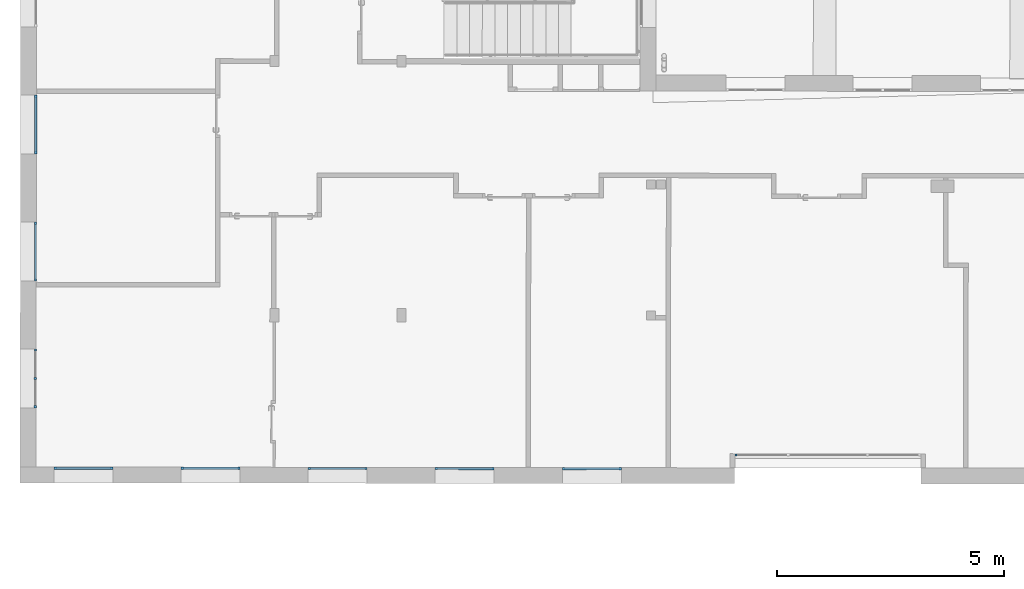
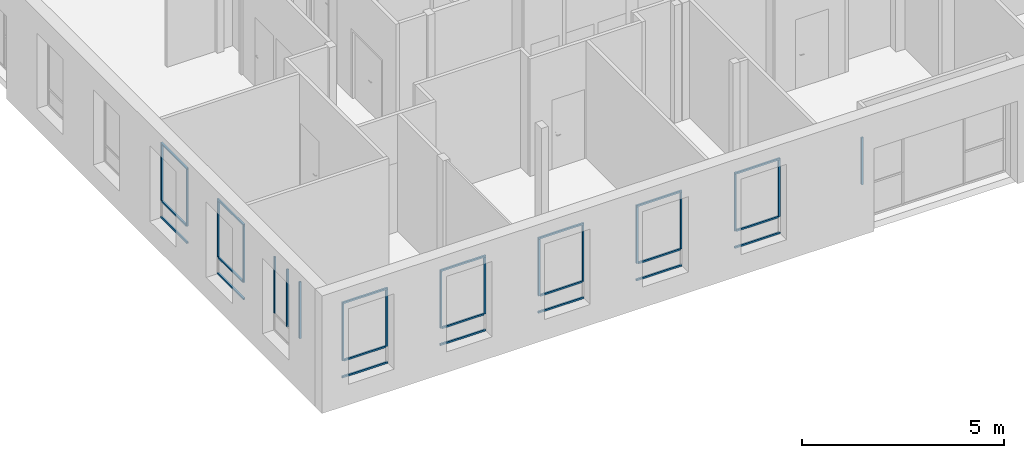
# One storey, part 3 of 101: 39 members, 9 elements without a shape of their own.
"""IFC2X3 building model written with IfcOpenShell, lengths in metres."""

from ifc_helpers import new_model, entity, si_unit, converted_unit, derived_unit, direction, frame, frame_2d, origin, origin_2d_with_axis, place, context, subcontext, project, spatial, rectangle, extrude, source, transform, mapped, material, type_object, type_shapes, element, aggregate, save


model = new_model("IFC2X3")

# Units and contexts
model_context = context("Model", 3, precision=1e-05, world=origin(), true_north=direction((6.123233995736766e-17, 1.0)))
body_context = subcontext(model_context, "Body", "Model", "MODEL_VIEW")
ifc_project = project(units=[si_unit("LENGTHUNIT", "METRE"), si_unit("AREAUNIT", "SQUARE_METRE"), converted_unit("PLANEANGLEUNIT", "DEGREE", entity("IfcPlaneAngleMeasure", 0.017453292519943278), si_unit("PLANEANGLEUNIT", "RADIAN"), dimensions=[0, 0, 0, 0, 0, 0, 0]), derived_unit("THERMALTRANSMITTANCEUNIT", [(si_unit("MASSUNIT", "GRAM", prefix="KILO"), 1), (si_unit("THERMODYNAMICTEMPERATUREUNIT", "KELVIN"), -1), (si_unit("TIMEUNIT", "SECOND"), -3)])], contexts=[model_context])

# Site, building, storey
site_placement = place(None, frame((1253.6752467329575, 2072.143113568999, 91.49999999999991), z_axis=(0.0, 0.0, 1.0), x_axis=(0.7237211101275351, 0.6900925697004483, 0.0)))
site = spatial("IfcSite", under=ifc_project, at=site_placement, Name="Surface", CompositionType="ELEMENT")
building_placement = place(site_placement, origin())
building = spatial("IfcBuilding", under=site, at=building_placement, CompositionType="ELEMENT")
storey_placement = place(building_placement, origin())
storey = spatial("IfcBuildingStorey", under=building, at=storey_placement, Name="0- Rdc", CompositionType="ELEMENT", Elevation=-5.764692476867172e-13)

# Curtain wall, member
curtain_wall_type = type_object("IfcCurtainWallType", Name="Mur-rideau:Menuiserie Ext 1F+1OB VERTIC", PredefinedType="NOTDEFINED")
curtain_wall_1_placement = place(storey_placement, origin())
curtain_wall_1 = element("IfcCurtainWall", 1, at=curtain_wall_1_placement, inside=storey, type_object=curtain_wall_type, Name="Mur-rideau:Menuiserie Ext 1F+1OB VERTIC", ObjectType="Mur-rideau:Menuiserie Ext 1F+1OB VERTIC")
ifc_material_1 = material(Name="OMD_Aluminium Men Ext")
member_type_1 = type_object("IfcMemberType", Name="Meneau rectangulaire:50x50", PredefinedType="MULLION", material=ifc_material_1)
shared_shape_1 = source(origin(), body_context, "Body", "SweptSolid", [
    extrude(rectangle(XDim=0.05, YDim=0.049999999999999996, at=origin_2d_with_axis()), frame((-0.025, 0.0, -1.2996959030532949), z_axis=(0.0, 0.0, 1.0), x_axis=(-1.0, 0.0, 0.0)), (0.0, 0.0, 1.0), 1.2996959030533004),
])
type_shapes(member_type_1, [shared_shape_1])
member_1_placement = place(curtain_wall_1_placement, frame((152.60053656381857, -3.756054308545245, 2.8999999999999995), z_axis=(-0.7228702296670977, 0.6909838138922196, 0.0), x_axis=(0.0, 0.0, 1.0)))
member_1 = element("IfcMember", 2, at=member_1_placement, type_object=member_type_1, material=ifc_material_1, Name="Meneau rectangulaire:50x50", ObjectType="Meneau rectangulaire:50x50", context=body_context, shape_type="MappedRepresentation", body=[
    mapped(shared_shape_1, transform((0.0, 0.0, 0.0), scale=1.0)),
])

curtain_wall_2_placement = place(storey_placement, origin())
curtain_wall_2 = element("IfcCurtainWall", 3, at=curtain_wall_2_placement, inside=storey, type_object=curtain_wall_type, Name="Mur-rideau:Menuiserie Ext 1F+1OB VERTIC", ObjectType="Mur-rideau:Menuiserie Ext 1F+1OB VERTIC")
member_2_placement = place(curtain_wall_2_placement, frame((150.5764999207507, -1.8212996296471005, 2.8999999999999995), z_axis=(-0.7228702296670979, 0.6909838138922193, 0.0), x_axis=(0.0, 0.0, 1.0)))
member_2 = element("IfcMember", 4, at=member_2_placement, type_object=member_type_1, material=ifc_material_1, Name="Meneau rectangulaire:50x50", ObjectType="Meneau rectangulaire:50x50", context=body_context, shape_type="MappedRepresentation", body=[
    mapped(shared_shape_1, transform((0.0, 0.0, 0.0), scale=1.0)),
])

curtain_wall_3_placement = place(storey_placement, origin())
curtain_wall_3 = element("IfcCurtainWall", 5, at=curtain_wall_3_placement, inside=storey, type_object=curtain_wall_type, Name="Mur-rideau:Menuiserie Ext 1F+1OB VERTIC", ObjectType="Mur-rideau:Menuiserie Ext 1F+1OB VERTIC")
member_3_placement = place(curtain_wall_3_placement, frame((148.55246327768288, 0.11345504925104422, 2.8999999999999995), z_axis=(-0.7228702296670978, 0.6909838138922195, 0.0), x_axis=(0.0, 0.0, 1.0)))
member_3 = element("IfcMember", 6, at=member_3_placement, type_object=member_type_1, material=ifc_material_1, Name="Meneau rectangulaire:50x50", ObjectType="Meneau rectangulaire:50x50", context=body_context, shape_type="MappedRepresentation", body=[
    mapped(shared_shape_1, transform((0.0, 0.0, 0.0), scale=1.0)),
])

curtain_wall_4_placement = place(storey_placement, origin())
curtain_wall_4 = element("IfcCurtainWall", 7, at=curtain_wall_4_placement, inside=storey, type_object=curtain_wall_type, Name="Mur-rideau:Menuiserie Ext 1F+1OB VERTIC", ObjectType="Mur-rideau:Menuiserie Ext 1F+1OB VERTIC")
member_4_placement = place(curtain_wall_4_placement, frame((146.5281144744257, 2.048508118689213, 2.8999999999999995), z_axis=(-0.7228702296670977, 0.6909838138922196, 0.0), x_axis=(0.0, 0.0, 1.0)))
member_4 = element("IfcMember", 8, at=member_4_placement, type_object=member_type_1, material=ifc_material_1, Name="Meneau rectangulaire:50x50", ObjectType="Meneau rectangulaire:50x50", context=body_context, shape_type="MappedRepresentation", body=[
    mapped(shared_shape_1, transform((0.0, 0.0, 0.0), scale=1.0)),
])

curtain_wall_5_placement = place(storey_placement, origin())
curtain_wall_5 = element("IfcCurtainWall", 9, at=curtain_wall_5_placement, inside=storey, type_object=curtain_wall_type, Name="Mur-rideau:Menuiserie Ext 1F+1OB VERTIC", ObjectType="Mur-rideau:Menuiserie Ext 1F+1OB VERTIC")
member_5_placement = place(curtain_wall_5_placement, frame((144.50438999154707, 3.9829644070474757, 2.8999999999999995), z_axis=(-0.7228702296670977, 0.6909838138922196, 0.0), x_axis=(0.0, 0.0, 1.0)))
member_5 = element("IfcMember", 10, at=member_5_placement, type_object=member_type_1, material=ifc_material_1, Name="Meneau rectangulaire:50x50", ObjectType="Meneau rectangulaire:50x50", context=body_context, shape_type="MappedRepresentation", body=[
    mapped(shared_shape_1, transform((0.0, 0.0, 0.0), scale=1.0)),
])

curtain_wall_6_placement = place(storey_placement, origin())
curtain_wall_6 = element("IfcCurtainWall", 11, at=curtain_wall_6_placement, inside=storey, type_object=curtain_wall_type, Name="Mur-rideau:Menuiserie Ext 1F+1OB VERTIC", ObjectType="Mur-rideau:Menuiserie Ext 1F+1OB VERTIC")
member_6_placement = place(curtain_wall_6_placement, frame((147.9515125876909, 8.187219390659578, 2.8999999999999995), z_axis=(0.6911544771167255, 0.7227070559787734, 0.0), x_axis=(0.0, 0.0, 1.0)))
member_6 = element("IfcMember", 12, at=member_6_placement, type_object=member_type_1, material=ifc_material_1, Name="Meneau rectangulaire:50x50", ObjectType="Meneau rectangulaire:50x50", context=body_context, shape_type="MappedRepresentation", body=[
    mapped(shared_shape_1, transform((0.0, 0.0, 0.0), scale=1.0)),
])

curtain_wall_7_placement = place(storey_placement, origin())
curtain_wall_7 = element("IfcCurtainWall", 13, at=curtain_wall_7_placement, inside=storey, type_object=curtain_wall_type, Name="Mur-rideau:Menuiserie Ext 1F+1OB VERTIC", ObjectType="Mur-rideau:Menuiserie Ext 1F+1OB VERTIC")
member_7_placement = place(curtain_wall_7_placement, frame((149.88626726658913, 10.211256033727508, 2.8999999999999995), z_axis=(0.6911544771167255, 0.7227070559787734, 0.0), x_axis=(0.0, 0.0, 1.0)))
member_7 = element("IfcMember", 14, at=member_7_placement, type_object=member_type_1, material=ifc_material_1, Name="Meneau rectangulaire:50x50", ObjectType="Meneau rectangulaire:50x50", context=body_context, shape_type="MappedRepresentation", body=[
    mapped(shared_shape_1, transform((0.0, 0.0, 0.0), scale=1.0)),
])

# Member
member_type_2 = type_object("IfcMemberType", Name="Meneau rectangulaire:50x50", PredefinedType="MULLION", material=ifc_material_1)
shared_shape_2 = source(origin(), body_context, "Body", "SweptSolid", [
    extrude(rectangle(XDim=0.05, YDim=0.05, at=origin_2d_with_axis()), frame((-0.025, 0.0, -1.2996959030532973), z_axis=(0.0, 0.0, 1.0), x_axis=(-1.0, 0.0, 0.0)), (0.0, 0.0, 1.0), 1.2996959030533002),
])
type_shapes(member_type_2, [shared_shape_2])
member_8_placement = place(curtain_wall_1_placement, frame((153.5400480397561, -4.6541231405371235, 0.62), z_axis=(0.7228702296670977, -0.6909838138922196, 0.0), x_axis=(0.0, 0.0, -1.0)))
member_8 = element("IfcMember", 15, at=member_8_placement, type_object=member_type_2, material=ifc_material_1, Name="Meneau rectangulaire:50x50", ObjectType="Meneau rectangulaire:50x50", context=body_context, shape_type="MappedRepresentation", body=[
    mapped(shared_shape_2, transform((0.0, 0.0, 0.0), scale=1.0)),
])

member_9_placement = place(curtain_wall_2_placement, frame((151.5160113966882, -2.7193684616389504, 0.62), z_axis=(0.7228702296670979, -0.6909838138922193, 0.0), x_axis=(0.0, 0.0, -1.0)))
member_9 = element("IfcMember", 16, at=member_9_placement, type_object=member_type_2, material=ifc_material_1, Name="Meneau rectangulaire:50x50", ObjectType="Meneau rectangulaire:50x50", context=body_context, shape_type="MappedRepresentation", body=[
    mapped(shared_shape_2, transform((0.0, 0.0, 0.0), scale=1.0)),
])

member_10_placement = place(curtain_wall_3_placement, frame((149.4919747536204, -0.7846137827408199, 0.62), z_axis=(0.7228702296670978, -0.6909838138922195, 0.0), x_axis=(0.0, 0.0, -1.0)))
member_10 = element("IfcMember", 17, at=member_10_placement, type_object=member_type_2, material=ifc_material_1, Name="Meneau rectangulaire:50x50", ObjectType="Meneau rectangulaire:50x50", context=body_context, shape_type="MappedRepresentation", body=[
    mapped(shared_shape_2, transform((0.0, 0.0, 0.0), scale=1.0)),
])

member_11_placement = place(curtain_wall_4_placement, frame((147.4676259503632, 1.1504392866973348, 0.62), z_axis=(0.7228702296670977, -0.6909838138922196, 0.0), x_axis=(0.0, 0.0, -1.0)))
member_11 = element("IfcMember", 18, at=member_11_placement, type_object=member_type_2, material=ifc_material_1, Name="Meneau rectangulaire:50x50", ObjectType="Meneau rectangulaire:50x50", context=body_context, shape_type="MappedRepresentation", body=[
    mapped(shared_shape_2, transform((0.0, 0.0, 0.0), scale=1.0)),
])

member_12_placement = place(curtain_wall_5_placement, frame((145.44390146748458, 3.0848955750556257, 0.62), z_axis=(0.7228702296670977, -0.6909838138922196, 0.0), x_axis=(0.0, 0.0, -1.0)))
member_12 = element("IfcMember", 19, at=member_12_placement, type_object=member_type_2, material=ifc_material_1, Name="Meneau rectangulaire:50x50", ObjectType="Meneau rectangulaire:50x50", context=body_context, shape_type="MappedRepresentation", body=[
    mapped(shared_shape_2, transform((0.0, 0.0, 0.0), scale=1.0)),
])

member_13_placement = place(curtain_wall_6_placement, frame((147.05322194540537, 7.24791999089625, 0.62), z_axis=(-0.6911544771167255, -0.7227070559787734, 0.0), x_axis=(0.0, 0.0, -1.0)))
member_13 = element("IfcMember", 20, at=member_13_placement, type_object=member_type_2, material=ifc_material_1, Name="Meneau rectangulaire:50x50", ObjectType="Meneau rectangulaire:50x50", context=body_context, shape_type="MappedRepresentation", body=[
    mapped(shared_shape_2, transform((0.0, 0.0, 0.0), scale=1.0)),
])

member_14_placement = place(curtain_wall_7_placement, frame((148.98797662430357, 9.27195663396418, 0.62), z_axis=(-0.6911544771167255, -0.7227070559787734, 0.0), x_axis=(0.0, 0.0, -1.0)))
member_14 = element("IfcMember", 21, at=member_14_placement, type_object=member_type_2, material=ifc_material_1, Name="Meneau rectangulaire:50x50", ObjectType="Meneau rectangulaire:50x50", context=body_context, shape_type="MappedRepresentation", body=[
    mapped(shared_shape_2, transform((0.0, 0.0, 0.0), scale=1.0)),
])

member_type_3 = type_object("IfcMemberType", Name="Meneau rectangulaire:50x50", PredefinedType="MULLION", material=ifc_material_1)
shared_shape_3 = source(origin(), body_context, "Body", "SweptSolid", [
    extrude(rectangle(XDim=0.05, YDim=0.049999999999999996, at=origin_2d_with_axis()), frame((-0.025, 0.0, -1.7099999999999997), z_axis=(0.0, 0.0, 1.0), x_axis=(-1.0, 0.0, 0.0)), (0.0, 0.0, 1.0), 1.7099999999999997),
])
type_shapes(member_type_3, [shared_shape_3])
member_15_placement = place(curtain_wall_1_placement, frame((153.54004803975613, -4.654123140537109, 2.8499999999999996), z_axis=(0.0, 0.0, 1.0), x_axis=(0.7228702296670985, -0.6909838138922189, 0.0)))
member_15 = element("IfcMember", 22, at=member_15_placement, type_object=member_type_3, material=ifc_material_1, Name="Meneau rectangulaire:50x50", ObjectType="Meneau rectangulaire:50x50", context=body_context, shape_type="MappedRepresentation", body=[
    mapped(shared_shape_3, transform((0.0, 0.0, 0.0), scale=1.0)),
])

member_16_placement = place(curtain_wall_2_placement, frame((151.51601139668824, -2.7193684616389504, 2.8499999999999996), z_axis=(0.0, 0.0, 1.0), x_axis=(0.7228702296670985, -0.6909838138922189, 0.0)))
member_16 = element("IfcMember", 23, at=member_16_placement, type_object=member_type_3, material=ifc_material_1, Name="Meneau rectangulaire:50x50", ObjectType="Meneau rectangulaire:50x50", context=body_context, shape_type="MappedRepresentation", body=[
    mapped(shared_shape_3, transform((0.0, 0.0, 0.0), scale=1.0)),
])

member_17_placement = place(curtain_wall_3_placement, frame((149.4919747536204, -0.7846137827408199, 2.8499999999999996), z_axis=(0.0, 0.0, 1.0), x_axis=(0.7228702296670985, -0.6909838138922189, 0.0)))
member_17 = element("IfcMember", 24, at=member_17_placement, type_object=member_type_3, material=ifc_material_1, Name="Meneau rectangulaire:50x50", ObjectType="Meneau rectangulaire:50x50", context=body_context, shape_type="MappedRepresentation", body=[
    mapped(shared_shape_3, transform((0.0, 0.0, 0.0), scale=1.0)),
])

member_18_placement = place(curtain_wall_4_placement, frame((147.46762595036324, 1.1504392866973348, 2.8499999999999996), z_axis=(0.0, 0.0, 1.0), x_axis=(0.7228702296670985, -0.6909838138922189, 0.0)))
member_18 = element("IfcMember", 25, at=member_18_placement, type_object=member_type_3, material=ifc_material_1, Name="Meneau rectangulaire:50x50", ObjectType="Meneau rectangulaire:50x50", context=body_context, shape_type="MappedRepresentation", body=[
    mapped(shared_shape_3, transform((0.0, 0.0, 0.0), scale=1.0)),
])

member_19_placement = place(curtain_wall_5_placement, frame((145.44390146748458, 3.0848955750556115, 2.8499999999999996), z_axis=(0.0, 0.0, 1.0), x_axis=(0.7228702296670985, -0.6909838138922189, 0.0)))
member_19 = element("IfcMember", 26, at=member_19_placement, type_object=member_type_3, material=ifc_material_1, Name="Meneau rectangulaire:50x50", ObjectType="Meneau rectangulaire:50x50", context=body_context, shape_type="MappedRepresentation", body=[
    mapped(shared_shape_3, transform((0.0, 0.0, 0.0), scale=1.0)),
])

# Curtain wall, member
curtain_wall_8_placement = place(storey_placement, origin())
curtain_wall_8 = element("IfcCurtainWall", 27, at=curtain_wall_8_placement, inside=storey, type_object=curtain_wall_type, Name="Mur-rideau:Menuiserie Ext 1F+1OB VERTIC", ObjectType="Mur-rideau:Menuiserie Ext 1F+1OB VERTIC")
member_20_placement = place(curtain_wall_8_placement, frame((145.1219221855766, 5.22749769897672, 2.8499999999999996), z_axis=(0.0, 0.0, 1.0), x_axis=(-0.6911544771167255, -0.7227070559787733, 0.0)))
member_20 = element("IfcMember", 28, at=member_20_placement, type_object=member_type_3, material=ifc_material_1, Name="Meneau rectangulaire:50x50", ObjectType="Meneau rectangulaire:50x50", context=body_context, shape_type="MappedRepresentation", body=[
    mapped(shared_shape_3, transform((0.0, 0.0, 0.0), scale=1.0)),
])

# Member
member_21_placement = place(curtain_wall_6_placement, frame((147.0532219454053, 7.247919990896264, 2.8499999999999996), z_axis=(0.0, 0.0, 1.0), x_axis=(-0.6911544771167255, -0.7227070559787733, 0.0)))
member_21 = element("IfcMember", 29, at=member_21_placement, type_object=member_type_3, material=ifc_material_1, Name="Meneau rectangulaire:50x50", ObjectType="Meneau rectangulaire:50x50", context=body_context, shape_type="MappedRepresentation", body=[
    mapped(shared_shape_3, transform((0.0, 0.0, 0.0), scale=1.0)),
])

member_22_placement = place(curtain_wall_7_placement, frame((148.98797662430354, 9.271956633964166, 2.8499999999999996), z_axis=(0.0, 0.0, 1.0), x_axis=(-0.6911544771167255, -0.7227070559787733, 0.0)))
member_22 = element("IfcMember", 30, at=member_22_placement, type_object=member_type_3, material=ifc_material_1, Name="Meneau rectangulaire:50x50", ObjectType="Meneau rectangulaire:50x50", context=body_context, shape_type="MappedRepresentation", body=[
    mapped(shared_shape_3, transform((0.0, 0.0, 0.0), scale=1.0)),
])

member_type_4 = type_object("IfcMemberType", Name="Meneau rectangulaire:50x50", PredefinedType="MULLION", material=ifc_material_1)
shared_shape_4 = source(origin(), body_context, "Body", "SweptSolid", [
    extrude(rectangle(XDim=0.05, YDim=0.049999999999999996, at=origin_2d_with_axis()), frame((-0.025, 0.0, -1.7099999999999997), z_axis=(0.0, 0.0, 1.0), x_axis=(-1.0, 0.0, 0.0)), (0.0, 0.0, 1.0), 1.7099999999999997),
])
type_shapes(member_type_4, [shared_shape_4])
member_23_placement = place(curtain_wall_1_placement, frame((152.6005365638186, -3.756054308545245, 1.14), z_axis=(0.0, 0.0, -1.0), x_axis=(-0.7228702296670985, 0.6909838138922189, 0.0)))
member_23 = element("IfcMember", 31, at=member_23_placement, type_object=member_type_4, material=ifc_material_1, Name="Meneau rectangulaire:50x50", ObjectType="Meneau rectangulaire:50x50", context=body_context, shape_type="MappedRepresentation", body=[
    mapped(shared_shape_4, transform((0.0, 0.0, 0.0), scale=1.0)),
])

member_24_placement = place(curtain_wall_2_placement, frame((150.57649992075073, -1.8212996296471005, 1.14), z_axis=(0.0, 0.0, -1.0), x_axis=(-0.7228702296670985, 0.6909838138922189, 0.0)))
member_24 = element("IfcMember", 32, at=member_24_placement, type_object=member_type_4, material=ifc_material_1, Name="Meneau rectangulaire:50x50", ObjectType="Meneau rectangulaire:50x50", context=body_context, shape_type="MappedRepresentation", body=[
    mapped(shared_shape_4, transform((0.0, 0.0, 0.0), scale=1.0)),
])

member_25_placement = place(curtain_wall_3_placement, frame((148.5524632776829, 0.11345504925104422, 1.14), z_axis=(0.0, 0.0, -1.0), x_axis=(-0.7228702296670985, 0.6909838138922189, 0.0)))
member_25 = element("IfcMember", 33, at=member_25_placement, type_object=member_type_4, material=ifc_material_1, Name="Meneau rectangulaire:50x50", ObjectType="Meneau rectangulaire:50x50", context=body_context, shape_type="MappedRepresentation", body=[
    mapped(shared_shape_4, transform((0.0, 0.0, 0.0), scale=1.0)),
])

member_26_placement = place(curtain_wall_4_placement, frame((146.5281144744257, 2.048508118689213, 1.14), z_axis=(0.0, 0.0, -1.0), x_axis=(-0.7228702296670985, 0.6909838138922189, 0.0)))
member_26 = element("IfcMember", 34, at=member_26_placement, type_object=member_type_4, material=ifc_material_1, Name="Meneau rectangulaire:50x50", ObjectType="Meneau rectangulaire:50x50", context=body_context, shape_type="MappedRepresentation", body=[
    mapped(shared_shape_4, transform((0.0, 0.0, 0.0), scale=1.0)),
])

member_27_placement = place(curtain_wall_5_placement, frame((144.50438999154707, 3.9829644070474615, 1.14), z_axis=(0.0, 0.0, -1.0), x_axis=(-0.7228702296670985, 0.6909838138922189, 0.0)))
member_27 = element("IfcMember", 35, at=member_27_placement, type_object=member_type_4, material=ifc_material_1, Name="Meneau rectangulaire:50x50", ObjectType="Meneau rectangulaire:50x50", context=body_context, shape_type="MappedRepresentation", body=[
    mapped(shared_shape_4, transform((0.0, 0.0, 0.0), scale=1.0)),
])

member_28_placement = place(curtain_wall_8_placement, frame((146.02021282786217, 6.166797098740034, 1.14), z_axis=(0.0, 0.0, -1.0), x_axis=(0.6911544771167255, 0.7227070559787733, 0.0)))
member_28 = element("IfcMember", 36, at=member_28_placement, type_object=member_type_4, material=ifc_material_1, Name="Meneau rectangulaire:50x50", ObjectType="Meneau rectangulaire:50x50", context=body_context, shape_type="MappedRepresentation", body=[
    mapped(shared_shape_4, transform((0.0, 0.0, 0.0), scale=1.0)),
])

member_29_placement = place(curtain_wall_6_placement, frame((147.9515125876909, 8.187219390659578, 1.14), z_axis=(0.0, 0.0, -1.0), x_axis=(0.6911544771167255, 0.7227070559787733, 0.0)))
member_29 = element("IfcMember", 37, at=member_29_placement, type_object=member_type_4, material=ifc_material_1, Name="Meneau rectangulaire:50x50", ObjectType="Meneau rectangulaire:50x50", context=body_context, shape_type="MappedRepresentation", body=[
    mapped(shared_shape_4, transform((0.0, 0.0, 0.0), scale=1.0)),
])

member_30_placement = place(curtain_wall_7_placement, frame((149.8862672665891, 10.21125603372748, 1.14), z_axis=(0.0, 0.0, -1.0), x_axis=(0.6911544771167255, 0.7227070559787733, 0.0)))
member_30 = element("IfcMember", 38, at=member_30_placement, type_object=member_type_4, material=ifc_material_1, Name="Meneau rectangulaire:50x50", ObjectType="Meneau rectangulaire:50x50", context=body_context, shape_type="MappedRepresentation", body=[
    mapped(shared_shape_4, transform((0.0, 0.0, 0.0), scale=1.0)),
])

member_type_5 = type_object("IfcMemberType", Name="Meneau rectangulaire:50x50", PredefinedType="MULLION", material=ifc_material_1)
shared_shape_5 = source(origin(), body_context, "Body", "SweptSolid", [
    extrude(rectangle(XDim=0.05, YDim=0.05, at=frame_2d((0.0, -1.734723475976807e-18), x_axis=(1.0, 0.0))), frame((0.0, 0.0, -1.1996959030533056), z_axis=(0.0, 0.0, 1.0), x_axis=(-1.0, 0.0, 0.0)), (0.0, 0.0, 1.0), 1.1996959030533),
])
type_shapes(member_type_5, [shared_shape_5])
member_31_placement = place(curtain_wall_1_placement, frame((152.6366800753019, -3.7906034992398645, 1.14), z_axis=(-0.7228702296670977, 0.6909838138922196, 0.0), x_axis=(0.0, 0.0, 1.0)))
member_31 = element("IfcMember", 39, at=member_31_placement, type_object=member_type_5, material=ifc_material_1, Name="Meneau rectangulaire:50x50", ObjectType="Meneau rectangulaire:50x50", context=body_context, shape_type="MappedRepresentation", body=[
    mapped(shared_shape_5, transform((0.0, 0.0, 0.0), scale=1.0)),
])

aggregate(curtain_wall_1, [member_1, member_8, member_15, member_23, member_31])

member_32_placement = place(curtain_wall_2_placement, frame((150.61264343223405, -1.8558488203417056, 1.14), z_axis=(-0.7228702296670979, 0.6909838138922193, 0.0), x_axis=(0.0, 0.0, 1.0)))
member_32 = element("IfcMember", 40, at=member_32_placement, type_object=member_type_5, material=ifc_material_1, Name="Meneau rectangulaire:50x50", ObjectType="Meneau rectangulaire:50x50", context=body_context, shape_type="MappedRepresentation", body=[
    mapped(shared_shape_5, transform((0.0, 0.0, 0.0), scale=1.0)),
])

aggregate(curtain_wall_2, [member_2, member_9, member_16, member_24, member_32])

member_33_placement = place(curtain_wall_3_placement, frame((148.58860678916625, 0.07890585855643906, 1.14), z_axis=(-0.7228702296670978, 0.6909838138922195, 0.0), x_axis=(0.0, 0.0, 1.0)))
member_33 = element("IfcMember", 41, at=member_33_placement, type_object=member_type_5, material=ifc_material_1, Name="Meneau rectangulaire:50x50", ObjectType="Meneau rectangulaire:50x50", context=body_context, shape_type="MappedRepresentation", body=[
    mapped(shared_shape_5, transform((0.0, 0.0, 0.0), scale=1.0)),
])

aggregate(curtain_wall_3, [member_3, member_10, member_17, member_25, member_33])

member_34_placement = place(curtain_wall_4_placement, frame((146.56425798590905, 2.0139589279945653, 1.14), z_axis=(-0.7228702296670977, 0.6909838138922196, 0.0), x_axis=(0.0, 0.0, 1.0)))
member_34 = element("IfcMember", 42, at=member_34_placement, type_object=member_type_5, material=ifc_material_1, Name="Meneau rectangulaire:50x50", ObjectType="Meneau rectangulaire:50x50", context=body_context, shape_type="MappedRepresentation", body=[
    mapped(shared_shape_5, transform((0.0, 0.0, 0.0), scale=1.0)),
])

aggregate(curtain_wall_4, [member_4, member_11, member_18, member_26, member_34])

member_35_placement = place(curtain_wall_5_placement, frame((144.54053350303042, 3.9484152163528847, 1.14), z_axis=(-0.7228702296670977, 0.6909838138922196, 0.0), x_axis=(0.0, 0.0, 1.0)))
member_35 = element("IfcMember", 43, at=member_35_placement, type_object=member_type_5, material=ifc_material_1, Name="Meneau rectangulaire:50x50", ObjectType="Meneau rectangulaire:50x50", context=body_context, shape_type="MappedRepresentation", body=[
    mapped(shared_shape_5, transform((0.0, 0.0, 0.0), scale=1.0)),
])

aggregate(curtain_wall_5, [member_5, member_12, member_19, member_27, member_35])

member_36_placement = place(curtain_wall_6_placement, frame((147.9169548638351, 8.151084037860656, 1.14), z_axis=(0.6911544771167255, 0.7227070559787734, 0.0), x_axis=(0.0, 0.0, 1.0)))
member_36 = element("IfcMember", 44, at=member_36_placement, type_object=member_type_5, material=ifc_material_1, Name="Meneau rectangulaire:50x50", ObjectType="Meneau rectangulaire:50x50", context=body_context, shape_type="MappedRepresentation", body=[
    mapped(shared_shape_5, transform((0.0, 0.0, 0.0), scale=1.0)),
])

aggregate(curtain_wall_6, [member_6, member_13, member_21, member_29, member_36])

member_37_placement = place(curtain_wall_7_placement, frame((149.8517095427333, 10.175120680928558, 1.14), z_axis=(0.6911544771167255, 0.7227070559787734, 0.0), x_axis=(0.0, 0.0, 1.0)))
member_37 = element("IfcMember", 45, at=member_37_placement, type_object=member_type_5, material=ifc_material_1, Name="Meneau rectangulaire:50x50", ObjectType="Meneau rectangulaire:50x50", context=body_context, shape_type="MappedRepresentation", body=[
    mapped(shared_shape_5, transform((0.0, 0.0, 0.0), scale=1.0)),
])

aggregate(curtain_wall_7, [member_7, member_14, member_22, member_30, member_37])

ifc_material_2 = material(Name="OMD_Bois Men Int")
member_type_6 = type_object("IfcMemberType", Name="Meneau rectangulaire:50x50 Int", PredefinedType="MULLION", material=ifc_material_2)
shared_shape_6 = source(origin(), body_context, "Body", "SweptSolid", [
    extrude(rectangle(XDim=0.05, YDim=0.05, at=origin_2d_with_axis()), frame((0.0, 0.0, -1.7350000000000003), z_axis=(0.0, 0.0, 1.0), x_axis=(-1.0, 0.0, 0.0)), (0.0, 0.0, 1.0), 1.735),
])
type_shapes(member_type_6, [shared_shape_6])
member_38_placement = place(curtain_wall_8_placement, frame((145.57106750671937, 5.6971473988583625, 1.1149999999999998), z_axis=(0.0, 0.0, -1.0), x_axis=(0.6911544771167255, 0.7227070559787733, 0.0)))
member_38 = element("IfcMember", 46, at=member_38_placement, type_object=member_type_6, material=ifc_material_2, Name="Meneau rectangulaire:50x50 Int", ObjectType="Meneau rectangulaire:50x50 Int", context=body_context, shape_type="MappedRepresentation", body=[
    mapped(shared_shape_6, transform((0.0, 0.0, 0.0), scale=1.0)),
])

aggregate(curtain_wall_8, [member_20, member_28, member_38])

# Curtain wall, member
curtain_wall_9_placement = place(storey_placement, origin())
curtain_wall_9 = element("IfcCurtainWall", 47, at=curtain_wall_9_placement, inside=storey, type_object=curtain_wall_type, Name="Mur-rideau:Menuiserie Ext 1F+1OB VERTIC", ObjectType="Mur-rideau:Menuiserie Ext 1F+1OB VERTIC")
member_type_7 = type_object("IfcMemberType", Name="Meneau rectangulaire:50x50", PredefinedType="MULLION", material=ifc_material_1)
shared_shape_7 = source(origin(), body_context, "Body", "SweptSolid", [
    extrude(rectangle(XDim=0.05, YDim=0.05000000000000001, at=origin_2d_with_axis()), frame((-0.025, 0.0, -1.4249999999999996), z_axis=(0.0, 0.0, 1.0), x_axis=(-1.0, 0.0, 0.0)), (0.0, 0.0, 1.0), 1.4249999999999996),
])
type_shapes(member_type_7, [shared_shape_7])
member_39_placement = place(curtain_wall_9_placement, frame((155.5614285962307, -6.157492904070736, 1.025), z_axis=(0.0, 0.0, -1.0), x_axis=(-0.7228702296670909, 0.6909838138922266, 0.0)))
member_39 = element("IfcMember", 48, at=member_39_placement, type_object=member_type_7, material=ifc_material_1, Name="Meneau rectangulaire:50x50", ObjectType="Meneau rectangulaire:50x50", context=body_context, shape_type="MappedRepresentation", body=[
    mapped(shared_shape_7, transform((0.0, 0.0, 0.0), scale=1.0)),
])
aggregate(curtain_wall_9, [member_39])

save(model, "model.ifc")
